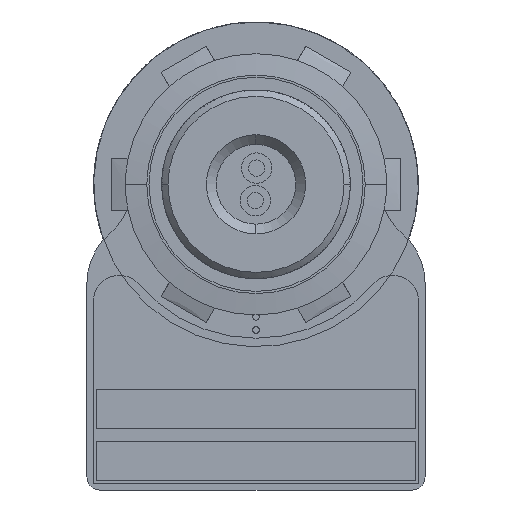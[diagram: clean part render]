
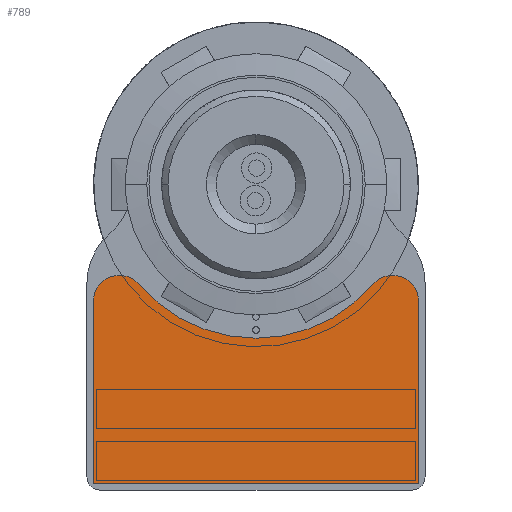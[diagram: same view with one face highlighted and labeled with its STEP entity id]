
A CAD part, left-side view. The second image highlights one B-rep face of the part: STEP entity #789.
In plain terms, the highlighted planar face has unit normal (-1, 0, 0) as drawn and (0, 0, -1) by its records, which use the part's own axes.
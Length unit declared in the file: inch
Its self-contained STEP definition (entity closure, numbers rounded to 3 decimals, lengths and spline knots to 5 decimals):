
#6 = FACE_OUTER_BOUND ( 'NONE', #23589, .T. ) ;
#231 = VECTOR ( 'NONE', #41015, 39.37008 ) ;
#789 = ADVANCED_FACE ( 'NONE', ( #6 ), #15251, .T. ) ;
#3485 = VERTEX_POINT ( 'NONE', #37417 ) ;
#3724 = EDGE_CURVE ( 'NONE', #20038, #40720, #39388, .T. ) ;
#3790 = ORIENTED_EDGE ( 'NONE', *, *, #3724, .T. ) ;
#5323 = CIRCLE ( 'NONE', #38070, 0.73933 ) ;
#7267 = DIRECTION ( 'NONE',  ( 0., 0., -1. ) ) ;
#9414 = VERTEX_POINT ( 'NONE', #19631 ) ;
#9799 = EDGE_CURVE ( 'NONE', #46852, #3485, #28054, .T. ) ;
#12307 = CARTESIAN_POINT ( 'NONE',  ( -0.65625, 0.5625, -0.0101 ) ) ;
#15251 = PLANE ( 'NONE',  #35844 ) ;
#15627 = AXIS2_PLACEMENT_3D ( 'NONE', #47043, #20733, #16222 ) ;
#16222 = DIRECTION ( 'NONE',  ( -1., 0., 0. ) ) ;
#17864 = EDGE_CURVE ( 'NONE', #40720, #27346, #38000, .T. ) ;
#17922 = ORIENTED_EDGE ( 'NONE', *, *, #9799, .T. ) ;
#18680 = DIRECTION ( 'NONE',  ( 0., 1., 0. ) ) ;
#19440 = EDGE_CURVE ( 'NONE', #27346, #46852, #5323, .T. ) ;
#19631 = CARTESIAN_POINT ( 'NONE',  ( -0.78125, 1.4375, -0.0101 ) ) ;
#19878 = ORIENTED_EDGE ( 'NONE', *, *, #40868, .T. ) ;
#20038 = VERTEX_POINT ( 'NONE', #35030 ) ;
#20733 = DIRECTION ( 'NONE',  ( 0., 0., -1. ) ) ;
#21837 = CARTESIAN_POINT ( 'NONE',  ( 0., 0., -0.0101 ) ) ;
#23386 = CARTESIAN_POINT ( 'NONE',  ( 0.56134, 0.48115, -0.0101 ) ) ;
#23477 = DIRECTION ( 'NONE',  ( -1., 0., 0. ) ) ;
#23589 = EDGE_LOOP ( 'NONE', ( #38878, #17922, #46642, #19878, #3790, #24705 ) ) ;
#24705 = ORIENTED_EDGE ( 'NONE', *, *, #17864, .T. ) ;
#25342 = DIRECTION ( 'NONE',  ( 0., 0., 1. ) ) ;
#26427 = AXIS2_PLACEMENT_3D ( 'NONE', #12307, #39606, #34841 ) ;
#27346 = VERTEX_POINT ( 'NONE', #23386 ) ;
#28054 = CIRCLE ( 'NONE', #26427, 0.125 ) ;
#28109 = CARTESIAN_POINT ( 'NONE',  ( 0.78125, 1.0231, -0.0101 ) ) ;
#28759 = CARTESIAN_POINT ( 'NONE',  ( 0., 1.4375, -0.0101 ) ) ;
#32332 = VECTOR ( 'NONE', #18680, 39.37008 ) ;
#33110 = DIRECTION ( 'NONE',  ( -1., 0., 0. ) ) ;
#33954 = LINE ( 'NONE', #36986, #32332 ) ;
#34656 = VECTOR ( 'NONE', #43369, 39.37008 ) ;
#34841 = DIRECTION ( 'NONE',  ( -1., 0., 0. ) ) ;
#35030 = CARTESIAN_POINT ( 'NONE',  ( 0.78125, 1.4375, -0.0101 ) ) ;
#35844 = AXIS2_PLACEMENT_3D ( 'NONE', #45788, #7267, #23477 ) ;
#36986 = CARTESIAN_POINT ( 'NONE',  ( -0.78125, 1.0231, -0.0101 ) ) ;
#37417 = CARTESIAN_POINT ( 'NONE',  ( -0.78125, 0.5625, -0.0101 ) ) ;
#38000 = CIRCLE ( 'NONE', #15627, 0.125 ) ;
#38070 = AXIS2_PLACEMENT_3D ( 'NONE', #21837, #25342, #33110 ) ;
#38878 = ORIENTED_EDGE ( 'NONE', *, *, #19440, .T. ) ;
#39388 = LINE ( 'NONE', #28109, #34656 ) ;
#39606 = DIRECTION ( 'NONE',  ( 0., 0., -1. ) ) ;
#40720 = VERTEX_POINT ( 'NONE', #43517 ) ;
#40868 = EDGE_CURVE ( 'NONE', #9414, #20038, #44517, .T. ) ;
#41015 = DIRECTION ( 'NONE',  ( 1., 0., 0. ) ) ;
#43369 = DIRECTION ( 'NONE',  ( 0., -1., 0. ) ) ;
#43517 = CARTESIAN_POINT ( 'NONE',  ( 0.78125, 0.5625, -0.0101 ) ) ;
#44492 = EDGE_CURVE ( 'NONE', #3485, #9414, #33954, .T. ) ;
#44517 = LINE ( 'NONE', #28759, #231 ) ;
#45788 = CARTESIAN_POINT ( 'NONE',  ( 0., 1.0231, -0.0101 ) ) ;
#46642 = ORIENTED_EDGE ( 'NONE', *, *, #44492, .T. ) ;
#46852 = VERTEX_POINT ( 'NONE', #47145 ) ;
#47043 = CARTESIAN_POINT ( 'NONE',  ( 0.65625, 0.5625, -0.0101 ) ) ;
#47145 = CARTESIAN_POINT ( 'NONE',  ( -0.56134, 0.48115, -0.0101 ) ) ;
